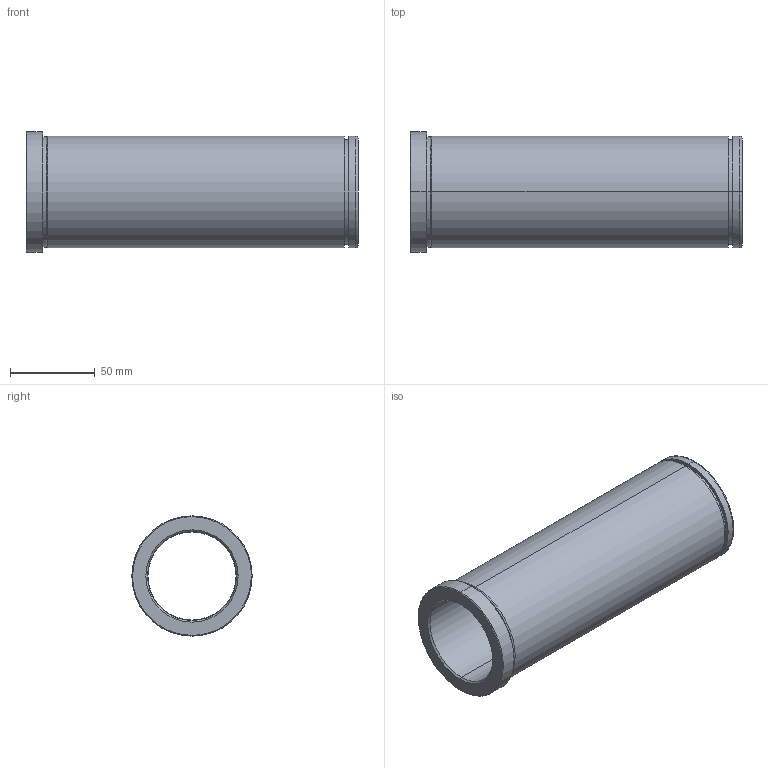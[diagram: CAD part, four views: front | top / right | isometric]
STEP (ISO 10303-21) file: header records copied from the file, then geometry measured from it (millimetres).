
FILE_DESCRIPTION(('CATIA V5 STEP Exchange'),'2;1');
FILE_NAME('C:\Users\Utente\Desktop\IO LAVORO\3D X SITO CF\X SITO\PLASTICA\553\553-52X196.stp','2021-06-08T17:59:23+00:00',('none'),('none'),'CATIA Version 5 Release 20 GA (IN-10)','CATIA V5 STEP AP203','none');
FILE_SCHEMA(('CONFIG_CONTROL_DESIGN'));
Length unit declared in the file: millimetre
Products named in the file (1): 553-52X196
Bounding box: 196 x 71 x 71 mm (x, y, z)
Volume: 254660.4 mm3; surface area: 76999.6 mm2
Topology: 1 solids, 1 shells, 32 faces, 102 edges, 76 vertices
Faces by surface type: cylinder 14, cone 8, plane 6, torus 4
Entity records: 1340 total; most frequent: CARTESIAN_POINT 395, ORIENTED_EDGE 204, DIRECTION 152, EDGE_CURVE 102, AXIS2_PLACEMENT_3D 99, VERTEX_POINT 76, CIRCLE 66, EDGE_LOOP 38
